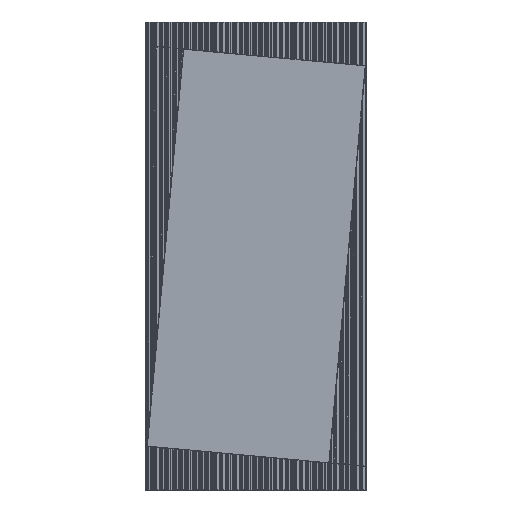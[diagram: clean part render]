
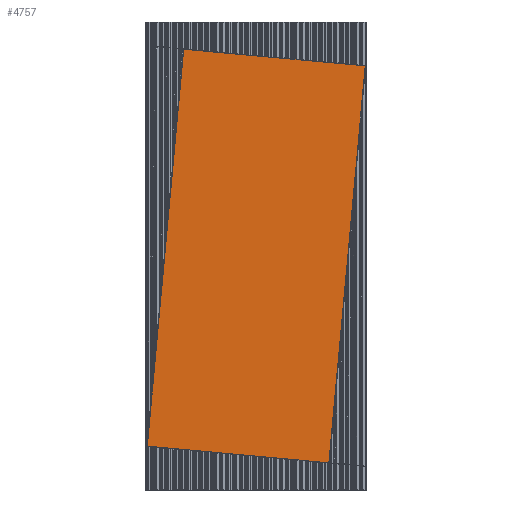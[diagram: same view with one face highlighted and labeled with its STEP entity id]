
A CAD part, top view. The second image highlights one B-rep face of the part: STEP entity #4757.
In plain terms, the highlighted planar face has unit normal (0, 0, 1).
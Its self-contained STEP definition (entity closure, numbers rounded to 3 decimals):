
#864 = VERTEX_POINT ( 'NONE', #23255 ) ;
#1814 = VERTEX_POINT ( 'NONE', #9114 ) ;
#3765 = VECTOR ( 'NONE', #40164, 1000. ) ;
#3928 = EDGE_CURVE ( 'NONE', #33247, #12086, #20878, .T. ) ;
#4306 = ORIENTED_EDGE ( 'NONE', *, *, #5686, .T. ) ;
#4757 = ADVANCED_FACE ( 'NONE', ( #39833 ), #37074, .T. ) ;
#5418 = CARTESIAN_POINT ( 'NONE',  ( -441.367, -772.875, 25. ) ) ;
#5435 = EDGE_LOOP ( 'NONE', ( #31826, #4306, #20721, #7714 ) ) ;
#5686 = EDGE_CURVE ( 'NONE', #12086, #1814, #22461, .T. ) ;
#6035 = DIRECTION ( 'NONE',  ( -0.091, -0.996, 0. ) ) ;
#6312 = CARTESIAN_POINT ( 'NONE',  ( 443.326, 771.82, 25. ) ) ;
#7714 = ORIENTED_EDGE ( 'NONE', *, *, #33363, .T. ) ;
#9114 = CARTESIAN_POINT ( 'NONE',  ( -293.585, 839.366, 25. ) ) ;
#12086 = VERTEX_POINT ( 'NONE', #6312 ) ;
#14383 = DIRECTION ( 'NONE',  ( 1., 0., 0. ) ) ;
#16601 = VECTOR ( 'NONE', #23097, 1000. ) ;
#17882 = VECTOR ( 'NONE', #35390, 1000. ) ;
#19696 = LINE ( 'NONE', #41758, #16601 ) ;
#20538 = CARTESIAN_POINT ( 'NONE',  ( 0., 0., 25. ) ) ;
#20721 = ORIENTED_EDGE ( 'NONE', *, *, #22342, .T. ) ;
#20878 = LINE ( 'NONE', #27219, #3765 ) ;
#22342 = EDGE_CURVE ( 'NONE', #1814, #864, #41453, .T. ) ;
#22461 = LINE ( 'NONE', #25644, #17882 ) ;
#23097 = DIRECTION ( 'NONE',  ( 0.996, -0.091, 0. ) ) ;
#23255 = CARTESIAN_POINT ( 'NONE',  ( -441.275, -771.879, 25. ) ) ;
#24552 = DIRECTION ( 'NONE',  ( 0., 0., 1. ) ) ;
#25644 = CARTESIAN_POINT ( 'NONE',  ( -294.581, 839.458, 25. ) ) ;
#27219 = CARTESIAN_POINT ( 'NONE',  ( 443.417, 772.815, 25. ) ) ;
#28594 = CARTESIAN_POINT ( 'NONE',  ( 295.635, -839.426, 25. ) ) ;
#31826 = ORIENTED_EDGE ( 'NONE', *, *, #3928, .T. ) ;
#33025 = AXIS2_PLACEMENT_3D ( 'NONE', #20538, #24552, #14383 ) ;
#33247 = VERTEX_POINT ( 'NONE', #28594 ) ;
#33363 = EDGE_CURVE ( 'NONE', #864, #33247, #19696, .T. ) ;
#35390 = DIRECTION ( 'NONE',  ( -0.996, 0.091, 0. ) ) ;
#37074 = PLANE ( 'NONE',  #33025 ) ;
#37420 = VECTOR ( 'NONE', #6035, 1000. ) ;
#39833 = FACE_OUTER_BOUND ( 'NONE', #5435, .T. ) ;
#40164 = DIRECTION ( 'NONE',  ( 0.091, 0.996, 0. ) ) ;
#41453 = LINE ( 'NONE', #5418, #37420 ) ;
#41758 = CARTESIAN_POINT ( 'NONE',  ( 296.631, -839.517, 25. ) ) ;
